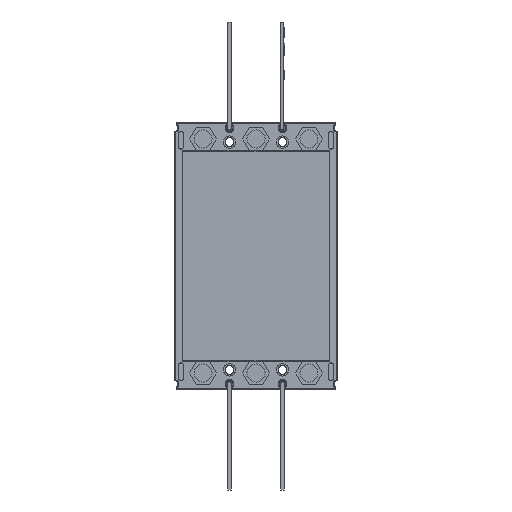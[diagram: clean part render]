
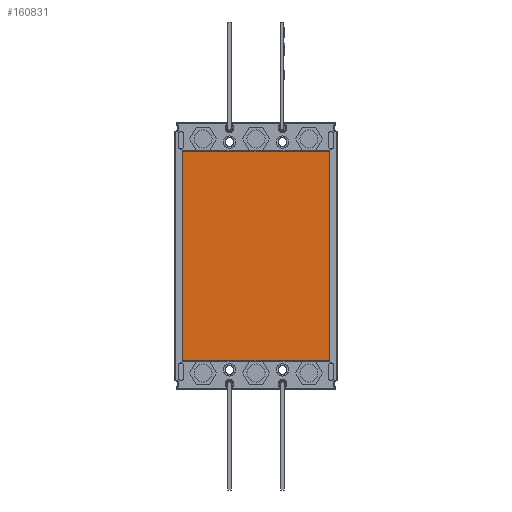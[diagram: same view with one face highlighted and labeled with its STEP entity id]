
A CAD part, front view. The second image highlights one B-rep face of the part: STEP entity #160831.
In plain terms, the highlighted planar face has unit normal (0, -1, 0).
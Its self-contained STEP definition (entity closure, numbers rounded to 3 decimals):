
#51049=DIRECTION('',(0.,0.,1.));
#51050=VECTOR('',#51049,118.5);
#51051=CARTESIAN_POINT('',(4.75,0.4,-134.75));
#51052=LINE('',#51051,#51050);
#51053=DIRECTION('',(1.,0.,0.));
#51054=VECTOR('',#51053,83.);
#51055=CARTESIAN_POINT('',(4.75,0.4,-16.25));
#51056=LINE('',#51055,#51054);
#51057=DIRECTION('',(0.,0.,-1.));
#51058=VECTOR('',#51057,118.5);
#51059=CARTESIAN_POINT('',(87.75,0.4,-16.25));
#51060=LINE('',#51059,#51058);
#51061=DIRECTION('',(-1.,0.,0.));
#51062=VECTOR('',#51061,83.);
#51063=CARTESIAN_POINT('',(87.75,0.4,-134.75));
#51064=LINE('',#51063,#51062);
#71450=CARTESIAN_POINT('',(4.75,0.4,-134.75));
#71451=CARTESIAN_POINT('',(4.75,0.4,-16.25));
#71452=VERTEX_POINT('',#71450);
#71453=VERTEX_POINT('',#71451);
#71454=CARTESIAN_POINT('',(87.75,0.4,-16.25));
#71455=VERTEX_POINT('',#71454);
#71456=CARTESIAN_POINT('',(87.75,0.4,-134.75));
#71457=VERTEX_POINT('',#71456);
#160820=CARTESIAN_POINT('',(46.25,0.4,-75.5));
#160821=DIRECTION('',(0.,1.,0.));
#160822=DIRECTION('',(1.,0.,0.));
#160823=AXIS2_PLACEMENT_3D('',#160820,#160821,#160822);
#160824=PLANE('',#160823);
#160825=ORIENTED_EDGE('',*,*,#160772,.T.);
#160826=ORIENTED_EDGE('',*,*,#160787,.T.);
#160827=ORIENTED_EDGE('',*,*,#160801,.T.);
#160828=ORIENTED_EDGE('',*,*,#160814,.T.);
#160829=EDGE_LOOP('',(#160825,#160826,#160827,#160828));
#160830=FACE_OUTER_BOUND('',#160829,.F.);
#160831=ADVANCED_FACE('',(#160830),#160824,.F.);
#160772=EDGE_CURVE('',#71452,#71453,#51052,.T.);
#160787=EDGE_CURVE('',#71453,#71455,#51056,.T.);
#160801=EDGE_CURVE('',#71455,#71457,#51060,.T.);
#160814=EDGE_CURVE('',#71457,#71452,#51064,.T.);
